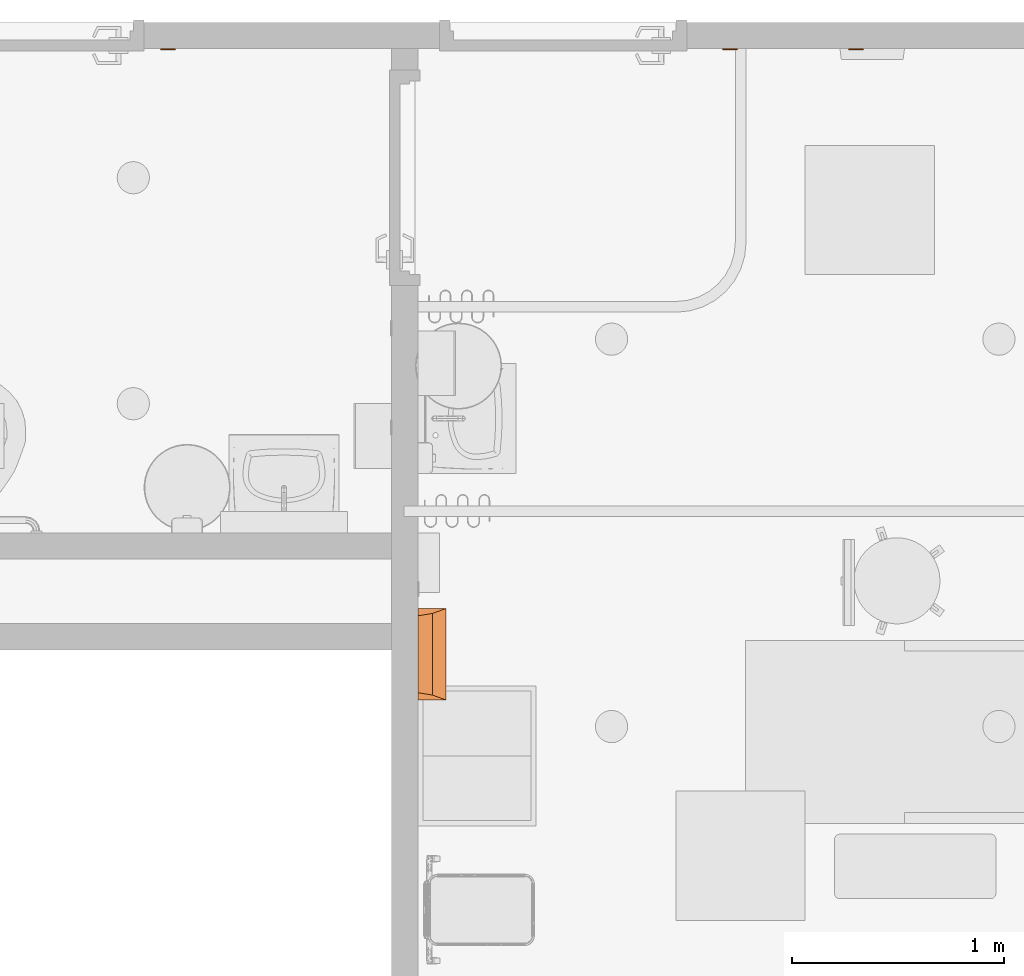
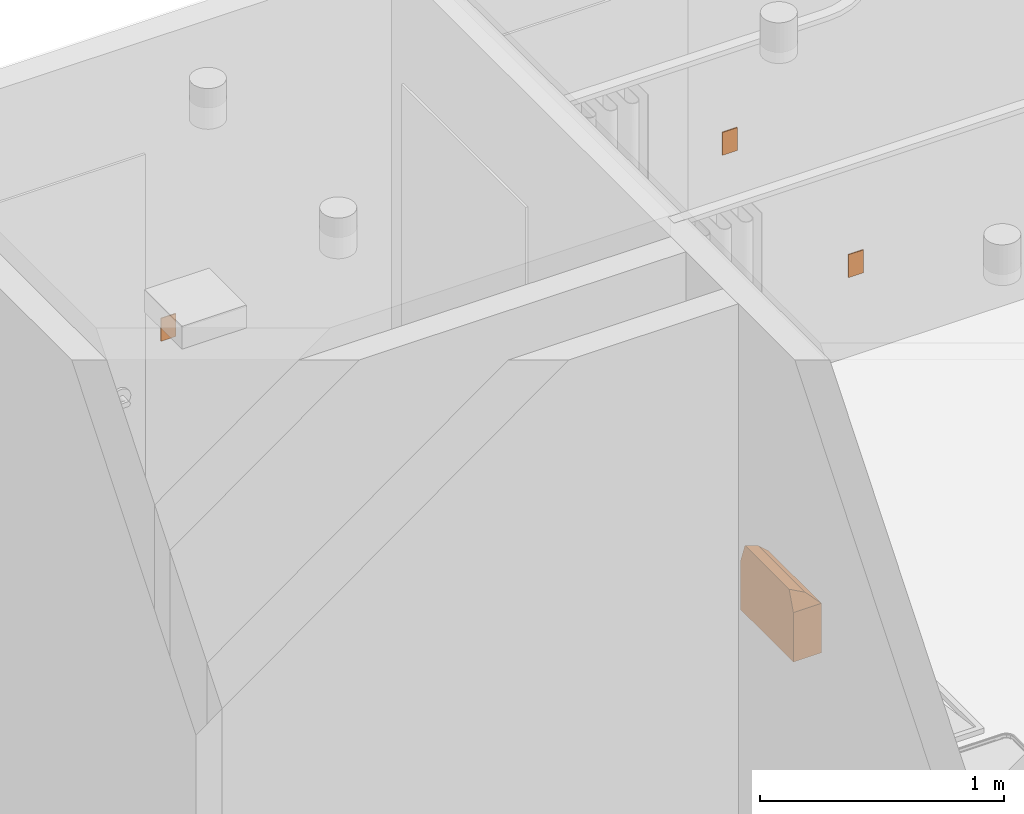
# One storey, part 12 of 14: 4 proxies.
"""IFC2X3 building model written with IfcOpenShell, lengths in feet."""

import ifcopenshell
import ifcopenshell.guid

model = None  # the IFC model being written
_history = None  # IfcOwnerHistory: only IFC2X3 demands one
_inside = {}  # id of a spatial element -> (the spatial element, [elements in it])
_under = {}  # id of a project, library or spatial element -> (it, [spatial elements below it])
_declared = {}  # id of a project -> (the project, [libraries it declares])
_typed = {}  # id of a type object -> (the type object, [elements of that type])
_made_of = {}  # id of a material, layer set ... -> (it, [elements and type objects made of it])


def new_model(schema):
    """Start an empty IFC model of exactly this schema.

    Asked for "IFC4X3", IfcOpenShell would pick the latest addendum, in which some entities
    have other attributes; the version numbers below select the first issue.
    IFC2X3 requires an IfcOwnerHistory on every rooted entity: one is made here for all.
    """
    global model, _history
    if schema == "IFC4X3":
        model = ifcopenshell.file(schema_version=(4, 3, 0, 0))
    else:
        model = ifcopenshell.file(schema=schema)
    _inside.clear()
    _under.clear()
    _declared.clear()
    _typed.clear()
    _made_of.clear()
    _history = None
    if model.schema == "IFC2X3":
        org = make("IfcOrganization", Name="unknown")
        user = make(
            "IfcPersonAndOrganization",
            ThePerson=make("IfcPerson", FamilyName="unknown"),
            TheOrganization=org,
        )
        app = make(
            "IfcApplication",
            ApplicationDeveloper=org,
            Version="unknown",
            ApplicationFullName="unknown",
            ApplicationIdentifier="unknown",
        )
        _history = make(
            "IfcOwnerHistory",
            OwningUser=user,
            OwningApplication=app,
            ChangeAction="ADDED",
            CreationDate=0,
        )
    return model


def make(cls, **values):
    """One entity of the class cls with the attributes given. An attribute that is None is left unset."""
    return model.create_entity(
        cls, **{name: value for name, value in values.items() if value is not None}
    )


def entity(cls, *values):
    """Any entity or typed value of the class cls, its attributes in the order of the schema. None: left unset."""
    e = model.create_entity(cls)
    for i, value in enumerate(values):
        if value is not None:
            e[i] = value
    return e


def rooted(cls, **values):
    """An entity with a GlobalId (a new one), such as an element, a storey or a relation."""
    return make(cls, GlobalId=ifcopenshell.guid.new(), OwnerHistory=_history, **values)


def si_unit(unit_type, name, prefix=None):
    """IfcSIUnit, for example si_unit("LENGTHUNIT", "METRE", prefix="MILLI")."""
    return make("IfcSIUnit", UnitType=unit_type, Prefix=prefix, Name=name)


def converted_unit(unit_type, name, factor, base, dimensions=None, offset=None):
    """IfcConversionBasedUnit, such as the inch: factor (a typed value) times the base unit."""
    return make(
        "IfcConversionBasedUnit"
        if offset is None
        else "IfcConversionBasedUnitWithOffset",
        ConversionOffset=offset,
        Dimensions=None
        if dimensions is None
        else entity("IfcDimensionalExponents", *dimensions),
        UnitType=unit_type,
        Name=name,
        ConversionFactor=make(
            "IfcMeasureWithUnit", ValueComponent=factor, UnitComponent=base
        ),
    )


def derived_unit(unit_type, elements):
    """IfcDerivedUnit: a product of units, each with its exponent."""
    return make(
        "IfcDerivedUnit",
        Elements=[
            make("IfcDerivedUnitElement", Unit=unit, Exponent=power)
            for unit, power in elements
        ],
        UnitType=unit_type,
    )


def assignment(units):
    """IfcUnitAssignment: the units of a project."""
    return None if units is None else make("IfcUnitAssignment", Units=units)


def point(xyz):
    """IfcCartesianPoint."""
    return None if xyz is None else make("IfcCartesianPoint", Coordinates=xyz)


def direction(xyz):
    """IfcDirection."""
    return None if xyz is None else make("IfcDirection", DirectionRatios=xyz)


def frame(location, z_axis=None, x_axis=None):
    """IfcAxis2Placement3D, a coordinate frame: its origin and axes. An axis left out is left unset."""
    return make(
        "IfcAxis2Placement3D",
        Location=point(location),
        Axis=direction(z_axis),
        RefDirection=direction(x_axis),
    )


def frame_2d(location, x_axis=None):
    """IfcAxis2Placement2D, a coordinate frame in the plane: its origin and x axis."""
    return make(
        "IfcAxis2Placement2D", Location=point(location), RefDirection=direction(x_axis)
    )


def origin():
    """The frame at (0, 0, 0) with its axes left unset."""
    return frame((0.0, 0.0, 0.0))


def origin_2d_with_axis():
    """The frame at (0, 0) in the plane with the x axis (1, 0) written out."""
    return frame_2d((0.0, 0.0), x_axis=(1.0, 0.0))


def place(relative_to, where):
    """IfcLocalPlacement: puts the frame where relative to a parent placement (None: the world)."""
    return make(
        "IfcLocalPlacement", PlacementRelTo=relative_to, RelativePlacement=where
    )


def context(
    kind, dimensions, precision=None, world=None, true_north=None, identifier=None
):
    """IfcGeometricRepresentationContext, for example the 3D "Model" context."""
    return make(
        "IfcGeometricRepresentationContext",
        ContextIdentifier=identifier,
        ContextType=kind,
        CoordinateSpaceDimension=dimensions,
        Precision=precision,
        WorldCoordinateSystem=world,
        TrueNorth=true_north,
    )


def subcontext(parent, identifier, kind, view, scale=None):
    """IfcGeometricRepresentationSubContext, for example "Body" below "Model"."""
    return make(
        "IfcGeometricRepresentationSubContext",
        ContextIdentifier=identifier,
        ContextType=kind,
        ParentContext=parent,
        TargetScale=scale,
        TargetView=view,
    )


def project(units=None, contexts=None):
    """IfcProject with its units and contexts."""
    return rooted(
        "IfcProject",
        Name="project",
        RepresentationContexts=contexts,
        UnitsInContext=assignment(units),
    )


def spatial(cls, under=None, at=None, **own):
    """A site, building, storey or space (cls), placed at a placement, below another one or the project."""
    s = rooted(cls, ObjectPlacement=at, **own)
    if under is not None:
        _under.setdefault(under.id(), (under, []))[1].append(s)
    return s


def profile(cls, at=None, kind="AREA", **sizes):
    """A parametric profile (cls). Its sizes go by their IFC names, for example OverallWidth=200.0."""
    return make(cls, ProfileType=kind, Position=at, **sizes)


def rectangle(**sizes):
    """IfcRectangleProfileDef."""
    return profile("IfcRectangleProfileDef", **sizes)


def extrude(swept, where, along, depth):
    """IfcExtrudedAreaSolid: the profile swept, set in the frame where, extruded along a direction by depth."""
    return make(
        "IfcExtrudedAreaSolid",
        SweptArea=swept,
        Position=where,
        ExtrudedDirection=direction(along),
        Depth=depth,
    )


def faces_of(points, faces, orient=None, outer=None):
    """IfcFace entities. A face is a list of loops; a loop is a list of indices into points, from 0.

    orient and outer hold one flag for each loop. By default every Orientation is true, the
    first loop of a face is its IfcFaceOuterBound and the others are IfcFaceBound.
    """
    made = []
    for i, loops in enumerate(faces):
        bounds = []
        for j, loop in enumerate(loops):
            is_outer = j == 0 if outer is None else outer[i][j]
            bounds.append(
                make(
                    "IfcFaceOuterBound" if is_outer else "IfcFaceBound",
                    Bound=make("IfcPolyLoop", Polygon=[points[k] for k in loop]),
                    Orientation=True if orient is None else orient[i][j],
                )
            )
        made.append(make("IfcFace", Bounds=bounds))
    return made


def faceted_brep(points, faces, orient=None, outer=None, voids=None):
    """IfcFacetedBrep: a solid bounded by flat faces; with voids (closed shells), ...WithVoids."""
    shared = [point(p) for p in points]
    hull = make("IfcClosedShell", CfsFaces=faces_of(shared, faces, orient, outer))
    if voids is None:
        return make("IfcFacetedBrep", Outer=hull)
    return make(
        "IfcFacetedBrepWithVoids",
        Outer=hull,
        Voids=[
            make(cls, CfsFaces=faces_of(shared, fs, o, b)) for cls, fs, o, b in voids
        ],
    )


def shape(context_of_items, identifier, shape_type, items):
    """IfcShapeRepresentation: the items that make up one representation, for example the "Body"."""
    return make(
        "IfcShapeRepresentation",
        ContextOfItems=context_of_items,
        RepresentationIdentifier=identifier,
        RepresentationType=shape_type,
        Items=items,
    )


def source(mapping_origin, context_of_items, identifier, shape_type, items):
    """IfcRepresentationMap: a shape defined once, which mapped items show again and again."""
    return make(
        "IfcRepresentationMap",
        MappingOrigin=mapping_origin,
        MappedRepresentation=shape(context_of_items, identifier, shape_type, items),
    )


def transform(
    local_origin,
    x_axis=None,
    y_axis=None,
    z_axis=None,
    scale=None,
    scale2=None,
    scale3=None,
    uniform=True,
):
    """IfcCartesianTransformationOperator3D, or its non-uniform kind. x_axis, y_axis, z_axis: its Axis1, 2, 3."""
    if uniform:
        return make(
            "IfcCartesianTransformationOperator3D",
            Axis1=direction(x_axis),
            Axis2=direction(y_axis),
            LocalOrigin=point(local_origin),
            Scale=scale,
            Axis3=direction(z_axis),
        )
    return make(
        "IfcCartesianTransformationOperator3DnonUniform",
        Axis1=direction(x_axis),
        Axis2=direction(y_axis),
        LocalOrigin=point(local_origin),
        Scale=scale,
        Axis3=direction(z_axis),
        Scale2=scale2,
        Scale3=scale3,
    )


def mapped(mapping_source, mapping_target):
    """IfcMappedItem: shows the shape of a source again, moved by a transform."""
    return make(
        "IfcMappedItem", MappingSource=mapping_source, MappingTarget=mapping_target
    )


def made_of(thing, what):
    """Note that an element or type object is made of a material, layer set ...; save() writes the relation."""
    if what is not None:
        _made_of.setdefault(what.id(), (what, []))[1].append(thing)
    return thing


def type_object(cls, material=None, **own):
    """A type object (cls), such as IfcWallType, which elements share."""
    return made_of(rooted(cls, **own), material)


def type_shapes(of_type, sources):
    """Give a type object the sources (RepresentationMaps) that its elements show as mapped items."""
    of_type.RepresentationMaps = sources


def element(
    cls,
    number,
    at=None,
    inside=None,
    cuts=None,
    type_object=None,
    material=None,
    context=None,
    identifier="Body",
    shape_type=None,
    held_by="IfcProductDefinitionShape",
    body=None,
    shapes=None,
    **own,
):
    """One element of the class cls, such as IfcWall. Its Tag is "e" and its number.

    at: its placement. inside: the storey or other place that contains it. cuts: it is an
    opening in that element (IfcRelVoidsElement). A single representation is given by context,
    identifier, shape_type and body (its items); several are given by shapes. held_by: the class
    of the entity that holds the representations. save() writes the other relations.
    """
    e = rooted(cls, Tag="e%d" % number, ObjectPlacement=at, **own)
    if body is not None:
        shapes = [shape(context, identifier, shape_type, body)]
    if shapes is not None:
        e.Representation = make(held_by, Representations=shapes)
    if inside is not None:
        _inside.setdefault(inside.id(), (inside, []))[1].append(e)
    if cuts is not None:
        rooted(
            "IfcRelVoidsElement", RelatingBuildingElement=cuts, RelatedOpeningElement=e
        )
    if type_object is not None:
        _typed.setdefault(type_object.id(), (type_object, []))[1].append(e)
    return made_of(e, material)


def aggregate(whole, parts):
    """IfcRelAggregates: a whole, such as a stair, and the parts it consists of."""
    return rooted("IfcRelAggregates", RelatingObject=whole, RelatedObjects=parts)


def save(model, path):
    """Write the relations noted so far, then the file.

    IfcRelAggregates (storeys below a building ...), IfcRelContainedInSpatialStructure (elements
    in a storey), IfcRelDefinesByType, IfcRelAssociatesMaterial and IfcRelDeclares: one each for
    every whole, place, type object, material and project.
    """
    for whole, parts in _under.values():
        aggregate(whole, parts)
    for where, things in _inside.values():
        rooted(
            "IfcRelContainedInSpatialStructure",
            RelatedElements=things,
            RelatingStructure=where,
        )
    for kind, things in _typed.values():
        rooted("IfcRelDefinesByType", RelatedObjects=things, RelatingType=kind)
    for what, things in _made_of.values():
        rooted("IfcRelAssociatesMaterial", RelatedObjects=things, RelatingMaterial=what)
    for by, libraries in _declared.values():
        rooted("IfcRelDeclares", RelatingContext=by, RelatedDefinitions=libraries)
    model.write(path)


model = new_model("IFC2X3")

# Units and contexts
model_context = context("Model", 3, precision=0.0001, world=origin(), true_north=direction((6.12303176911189e-17, 1.0)))
body_context = subcontext(model_context, "Body", "Model", "MODEL_VIEW")
ifc_project = project(units=[converted_unit("LENGTHUNIT", "FOOT", entity("IfcRatioMeasure", 0.3048), si_unit("LENGTHUNIT", "METRE"), dimensions=[1, 0, 0, 0, 0, 0, 0]), converted_unit("AREAUNIT", "SQUARE FOOT", entity("IfcRatioMeasure", 0.09290304), si_unit("AREAUNIT", "SQUARE_METRE"), dimensions=[2, 0, 0, 0, 0, 0, 0]), converted_unit("VOLUMEUNIT", "CUBIC FOOT", entity("IfcRatioMeasure", 0.028316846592), si_unit("VOLUMEUNIT", "CUBIC_METRE"), dimensions=[3, 0, 0, 0, 0, 0, 0]), converted_unit("PLANEANGLEUNIT", "DEGREE", entity("IfcRatioMeasure", 0.0174532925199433), si_unit("PLANEANGLEUNIT", "RADIAN"), dimensions=[0, 0, 0, 0, 0, 0, 0]), si_unit("MASSUNIT", "GRAM", prefix="KILO"), derived_unit("MASSDENSITYUNIT", [(si_unit("MASSUNIT", "GRAM", prefix="KILO"), 1), (si_unit("LENGTHUNIT", "METRE"), -3)]), si_unit("TIMEUNIT", "SECOND"), si_unit("FREQUENCYUNIT", "HERTZ"), si_unit("THERMODYNAMICTEMPERATUREUNIT", "DEGREE_CELSIUS"), derived_unit("THERMALTRANSMITTANCEUNIT", [(si_unit("MASSUNIT", "GRAM", prefix="KILO"), 1), (si_unit("THERMODYNAMICTEMPERATUREUNIT", "KELVIN"), -1), (si_unit("TIMEUNIT", "SECOND"), -3)]), derived_unit("VOLUMETRICFLOWRATEUNIT", [(si_unit("LENGTHUNIT", "METRE"), 3), (si_unit("TIMEUNIT", "SECOND"), -1)]), si_unit("ELECTRICCURRENTUNIT", "AMPERE"), si_unit("ELECTRICVOLTAGEUNIT", "VOLT"), si_unit("POWERUNIT", "WATT"), si_unit("FORCEUNIT", "NEWTON"), si_unit("ILLUMINANCEUNIT", "LUX"), si_unit("LUMINOUSFLUXUNIT", "LUMEN"), si_unit("LUMINOUSINTENSITYUNIT", "CANDELA"), derived_unit("USERDEFINED", [(si_unit("MASSUNIT", "GRAM", prefix="KILO"), -1), (si_unit("LENGTHUNIT", "METRE"), -2), (si_unit("TIMEUNIT", "SECOND"), 3), (si_unit("LUMINOUSFLUXUNIT", "LUMEN"), 1)]), derived_unit("LINEARVELOCITYUNIT", [(si_unit("LENGTHUNIT", "METRE"), 1), (si_unit("TIMEUNIT", "SECOND"), -1)]), si_unit("PRESSUREUNIT", "PASCAL"), derived_unit("USERDEFINED", [(si_unit("LENGTHUNIT", "METRE"), -2), (si_unit("MASSUNIT", "GRAM", prefix="KILO"), 1), (si_unit("TIMEUNIT", "SECOND"), -2)])], contexts=[model_context])

# Site, building, storey
site_placement = place(None, origin())
site = spatial("IfcSite", under=ifc_project, at=site_placement, Name="Default", CompositionType="ELEMENT")
building_placement = place(site_placement, origin())
building = spatial("IfcBuilding", under=site, at=building_placement, Name="OUTPATIENT / PACT CLINIC (Ch. 265)", CompositionType="ELEMENT")
storey_placement = place(building_placement, origin())
storey = spatial("IfcBuildingStorey", under=building, at=storey_placement, Name="DATUM", CompositionType="ELEMENT", Elevation=0.0)

# Proxy
building_element_proxy_type_1 = type_object("IfcBuildingElementProxyType", Name="A5108 - Waste Disposal Unit, Sharps 17\"x 13\"", PredefinedType="NOTDEFINED")
shared_shape_1 = source(origin(), body_context, "Body", "Brep", [
    faceted_brep([(0.70833333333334, 0.0, 0.0), (-0.708333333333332, 0.0, 0.0), (-0.708333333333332, 0.437500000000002, 0.0), (0.70833333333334, 0.437500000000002, 0.0), (0.70833333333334, 0.437500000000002, 0.810989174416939), (0.70833333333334, 0.0025667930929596, 0.810989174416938), (0.70833333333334, 0.0, 0.808422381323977), (-0.708333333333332, 0.437500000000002, 0.810989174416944), (-0.594042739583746, 0.437500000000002, 1.125), (0.594042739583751, 0.437500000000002, 1.125), (-0.708333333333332, 0.0, 0.808422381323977), (-0.708333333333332, 0.00256679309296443, 0.810989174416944), (0.632497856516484, 0.210923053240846, 1.01934543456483), (-0.632497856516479, 0.210923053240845, 1.01934543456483)], [[[0, 1, 2, 3]], [[0, 3, 4, 5, 6]], [[3, 2, 7, 8, 9, 4]], [[2, 1, 10, 11, 7]], [[1, 0, 6, 10]], [[10, 6, 5, 12, 13, 11]], [[12, 9, 8, 13]], [[5, 4, 9, 12]], [[8, 7, 11, 13]]]),
])
type_shapes(building_element_proxy_type_1, [shared_shape_1])
proxy_1_placement = place(storey_placement, frame((333.075193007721, -852.473932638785, 3.45608442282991), z_axis=(0.0, 0.0, 1.0), x_axis=(0.0, 1.0, 0.0)))
element("IfcBuildingElementProxy", 1, at=proxy_1_placement, inside=storey, type_object=building_element_proxy_type_1, Name="A5108 - Waste Disposal Unit, Sharps:A5108 - Waste Disposal Unit, Sharps 17\"x 13\"", ObjectType="A5108 - Waste Disposal Unit, Sharps 17\"x 13\"", context=body_context, shape_type="MappedRepresentation", body=[
    mapped(shared_shape_1, transform((0.0, 0.0, 0.0), scale=1.0)),
])

# Space
space_1_placement = place(storey_placement, origin())
space_1 = spatial("IfcSpace", under=storey, at=space_1_placement, Name="XDUS1", CompositionType="ELEMENT", InteriorOrExteriorSpace="INTERNAL")

# Proxies
building_element_proxy_type_2 = type_object("IfcBuildingElementProxyType", Name="Duplex", PredefinedType="NOTDEFINED")
shared_shape_2 = source(origin(), body_context, "Body", "SweptSolid", [
    extrude(rectangle(XDim=0.0156249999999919, YDim=0.229166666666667, at=origin_2d_with_axis()), frame((0.0, 0.210937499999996, 0.0), z_axis=(0.0, 0.0, 1.0), x_axis=(0.0, 1.0, 0.0)), (0.0, 0.0, 1.0), 0.37500000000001),
])
type_shapes(building_element_proxy_type_2, [shared_shape_2])
proxy_2_placement = place(space_1_placement, frame((339.424151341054, -842.890599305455, 1.3125), z_axis=(0.0, 0.0, 1.0), x_axis=(-1.0, 0.0, 0.0)))
element("IfcBuildingElementProxy", 2, at=proxy_2_placement, inside=space_1, type_object=building_element_proxy_type_2, Name="Outlet, Duplex, Wall:Duplex", ObjectType="Duplex", context=body_context, shape_type="MappedRepresentation", body=[
    mapped(shared_shape_2, transform((0.0, 0.0, 0.0), scale=1.0)),
])
building_element_proxy_type_3 = type_object("IfcBuildingElementProxyType", Name="Single", PredefinedType="NOTDEFINED")
shared_shape_3 = source(origin(), body_context, "Body", "SweptSolid", [
    extrude(rectangle(XDim=0.0156249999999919, YDim=0.229166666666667, at=frame_2d((0.0, -1.11022302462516e-16), x_axis=(1.0, 0.0))), frame((0.0, 0.210937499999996, 0.0), z_axis=(0.0, 0.0, 1.0), x_axis=(0.0, 1.0, 0.0)), (0.0, 0.0, 1.0), 0.37500000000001),
])
type_shapes(building_element_proxy_type_3, [shared_shape_3])
proxy_3_placement = place(space_1_placement, frame((337.471026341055, -842.890599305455, 4.0), z_axis=(0.0, 0.0, 1.0), x_axis=(-1.0, 0.0, 0.0)))
element("IfcBuildingElementProxy", 3, at=proxy_3_placement, inside=space_1, type_object=building_element_proxy_type_3, Name="Switch, Single:Single", ObjectType="Single", context=body_context, shape_type="MappedRepresentation", body=[
    mapped(shared_shape_3, transform((0.0, 0.0, 0.0), scale=1.0)),
])

# Space
space_2_placement = place(storey_placement, origin())
space_2 = spatial("IfcSpace", under=storey, at=space_2_placement, Name="TNPG1", CompositionType="ELEMENT", InteriorOrExteriorSpace="INTERNAL")

# Proxy
proxy_4_placement = place(space_2_placement, frame((328.767901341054, -842.890599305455, 4.0), z_axis=(0.0, 0.0, 1.0), x_axis=(-1.0, 0.0, 0.0)))
element("IfcBuildingElementProxy", 4, at=proxy_4_placement, inside=space_2, type_object=building_element_proxy_type_3, Name="Switch, Single:Single", ObjectType="Single", context=body_context, shape_type="MappedRepresentation", body=[
    mapped(shared_shape_3, transform((0.0, 0.0, 0.0), scale=1.0)),
])

save(model, "model.ifc")
